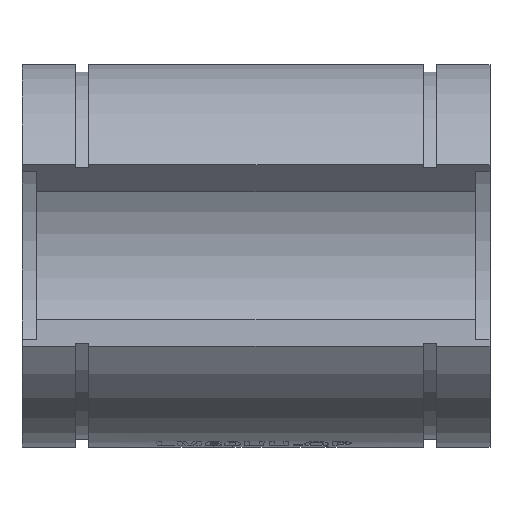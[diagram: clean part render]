
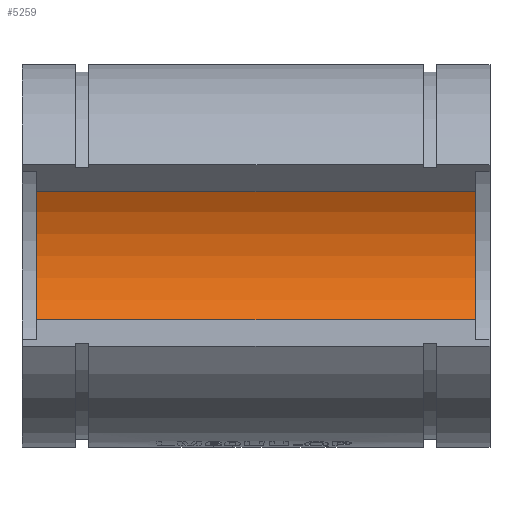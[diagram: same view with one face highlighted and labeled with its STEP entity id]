
A CAD part, top view. The second image highlights one B-rep face of the part: STEP entity #5259.
In plain terms, the highlighted cylindrical face has radius 30 mm (diameter 60 mm), a partial arc.
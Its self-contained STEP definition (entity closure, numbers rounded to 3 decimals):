
#349=CIRCLE('',#5661,30.);
#350=CIRCLE('',#5662,30.);
#521=LINE('',#8367,#966);
#522=LINE('',#8371,#967);
#966=VECTOR('',#6199,1000.);
#967=VECTOR('',#6202,1000.);
#1561=ORIENTED_EDGE('',*,*,#3153,.F.);
#1562=ORIENTED_EDGE('',*,*,#3154,.T.);
#1563=ORIENTED_EDGE('',*,*,#3155,.F.);
#1564=ORIENTED_EDGE('',*,*,#3156,.F.);
#3153=EDGE_CURVE('',#3949,#3950,#349,.F.);
#3154=EDGE_CURVE('',#3949,#3951,#521,.T.);
#3155=EDGE_CURVE('',#3952,#3951,#350,.F.);
#3156=EDGE_CURVE('',#3950,#3952,#522,.T.);
#3949=VERTEX_POINT('',#8365);
#3950=VERTEX_POINT('',#8366);
#3951=VERTEX_POINT('',#8368);
#3952=VERTEX_POINT('',#8370);
#4485=EDGE_LOOP('',(#1561,#1562,#1563,#1564));
#4862=FACE_BOUND('',#4485,.T.);
#5200=CYLINDRICAL_SURFACE('',#5660,30.);
#5259=ADVANCED_FACE('',(#4862),#5200,.F.);
#5660=AXIS2_PLACEMENT_3D('',#8363,#6195,#6196);
#5661=AXIS2_PLACEMENT_3D('',#8364,#6197,#6198);
#5662=AXIS2_PLACEMENT_3D('',#8369,#6200,#6201);
#6195=DIRECTION('',(1.,0.,0.));
#6196=DIRECTION('',(0.,0.,-1.));
#6197=DIRECTION('',(-1.,0.,0.));
#6198=DIRECTION('',(0.,0.,1.));
#6199=DIRECTION('',(1.,0.,0.));
#6200=DIRECTION('',(1.,0.,0.));
#6201=DIRECTION('',(0.,0.,-1.));
#6202=DIRECTION('',(1.,0.,0.));
#8363=CARTESIAN_POINT('',(-55.,0.,0.));
#8364=CARTESIAN_POINT('',(-51.5,0.,0.));
#8365=CARTESIAN_POINT('',(-51.5,-15.,25.981));
#8366=CARTESIAN_POINT('',(-51.5,15.,25.981));
#8367=CARTESIAN_POINT('',(-55.001,-15.,25.981));
#8368=CARTESIAN_POINT('',(51.5,-15.,25.981));
#8369=CARTESIAN_POINT('',(51.5,0.,0.));
#8370=CARTESIAN_POINT('',(51.5,15.,25.981));
#8371=CARTESIAN_POINT('',(-55.001,15.,25.981));
